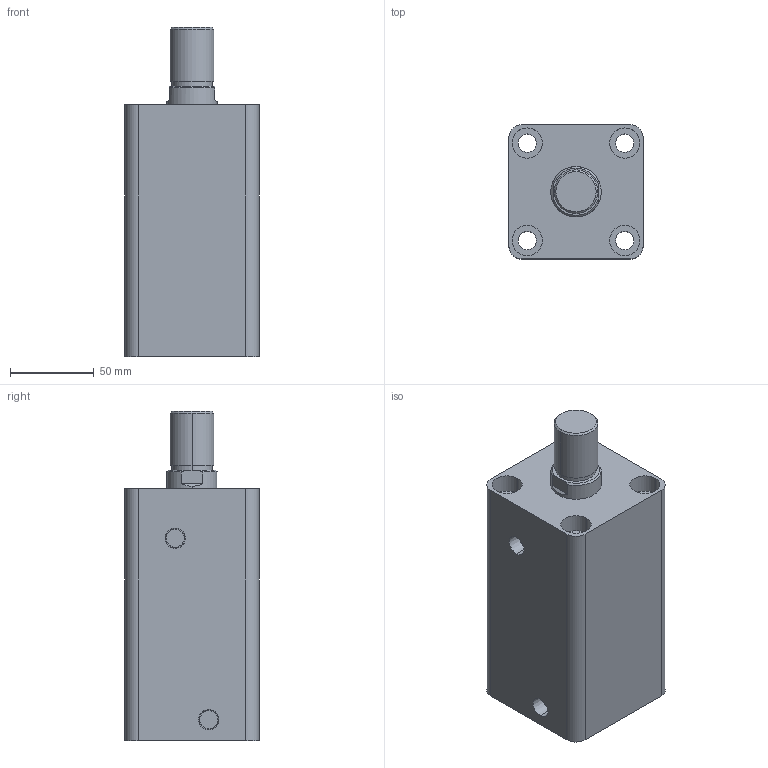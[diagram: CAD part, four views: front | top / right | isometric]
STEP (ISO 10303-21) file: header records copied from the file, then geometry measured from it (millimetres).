
FILE_DESCRIPTION (( 'STEP AP203' ), '1' );
FILE_NAME ('HTB-SD50-90W.STEP', '2019-10-07T07:22:33', ( '微软用户' ), ( '微软中国' ), 'SwSTEP 2.0', 'SolidWorks 2012', '' );
FILE_SCHEMA (( 'CONFIG_CONTROL_DESIGN' ));
Length unit declared in the file: millimetre
Products named in the file (3): HTB-SD50-90W; HTB-SD50-90W活塞杆; HTB-SD50-90掛极
Assembly tree (2 placements, depth 2):
  HTB-SD50-90W
    HTB-SD50-90掛极
    HTB-SD50-90W活塞杆
Bounding box: 80 x 80 x 196 mm (x, y, z)
Volume: 791016.4 mm3; surface area: 126137.3 mm2
Topology: 2 solids, 2 shells, 87 faces, 190 edges, 124 vertices
Faces by surface type: cylinder 44, plane 29, cone 8, torus 6
Entity records: 2761 total; most frequent: DIRECTION 478, CARTESIAN_POINT 434, ORIENTED_EDGE 380, AXIS2_PLACEMENT_3D 204, EDGE_CURVE 190, VERTEX_POINT 124, CIRCLE 112, EDGE_LOOP 112
